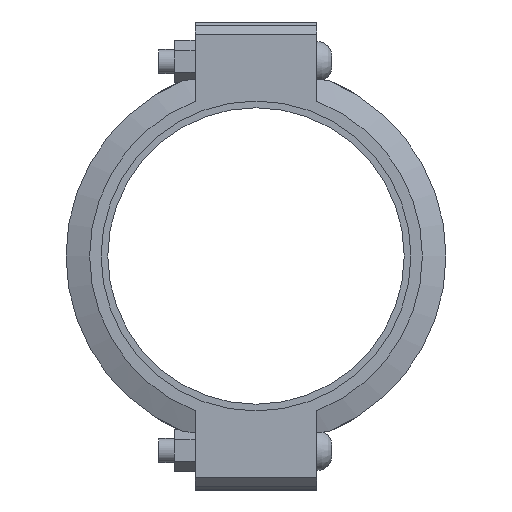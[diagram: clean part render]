
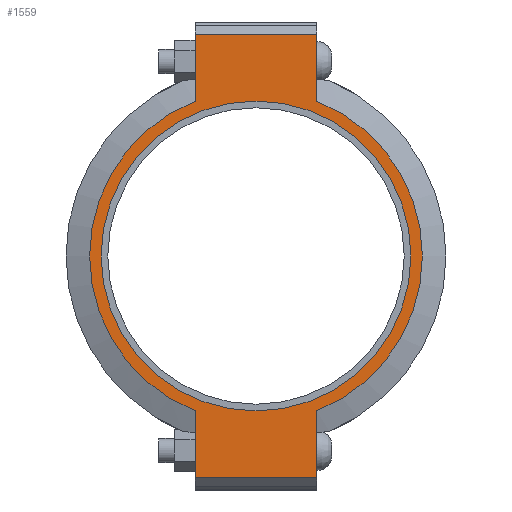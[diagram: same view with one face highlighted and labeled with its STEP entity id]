
A CAD part, left-side view. The second image highlights one B-rep face of the part: STEP entity #1559.
In plain terms, the highlighted planar face has unit normal (-1, 0, 0) as drawn and (0, 0, 1) by its records, which use the part's own axes.
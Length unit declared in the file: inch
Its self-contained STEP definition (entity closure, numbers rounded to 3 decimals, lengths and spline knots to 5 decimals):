
#186=LINE('',#2677,#273);
#197=LINE('',#2728,#284);
#203=LINE('',#2754,#290);
#205=LINE('',#2757,#292);
#206=LINE('',#2762,#293);
#207=LINE('',#2763,#294);
#273=VECTOR('',#2163,0.3937);
#284=VECTOR('',#2194,0.3937);
#290=VECTOR('',#2212,0.3937);
#292=VECTOR('',#2216,0.3937);
#293=VECTOR('',#2221,0.3937);
#294=VECTOR('',#2222,0.3937);
#352=FACE_BOUND('',#511,.T.);
#412=FACE_OUTER_BOUND('',#510,.T.);
#510=EDGE_LOOP('',(#1248,#1249,#1250,#1251,#1252,#1253,#1254,#1255));
#511=EDGE_LOOP('',(#1256));
#616=CIRCLE('',#1822,6.84375);
#617=CIRCLE('',#1823,6.84375);
#618=CIRCLE('',#1824,6.375);
#725=VERTEX_POINT('',#2674);
#726=VERTEX_POINT('',#2676);
#743=VERTEX_POINT('',#2723);
#744=VERTEX_POINT('',#2727);
#751=VERTEX_POINT('',#2749);
#752=VERTEX_POINT('',#2753);
#753=VERTEX_POINT('',#2759);
#754=VERTEX_POINT('',#2761);
#755=VERTEX_POINT('',#2765);
#895=EDGE_CURVE('',#726,#725,#186,.T.);
#916=EDGE_CURVE('',#744,#743,#197,.T.);
#927=EDGE_CURVE('',#752,#751,#203,.T.);
#929=EDGE_CURVE('',#752,#725,#205,.T.);
#930=EDGE_CURVE('',#751,#753,#616,.T.);
#931=EDGE_CURVE('',#753,#754,#206,.T.);
#932=EDGE_CURVE('',#744,#754,#207,.T.);
#933=EDGE_CURVE('',#743,#726,#617,.T.);
#934=EDGE_CURVE('',#755,#755,#618,.T.);
#1248=ORIENTED_EDGE('',*,*,#929,.F.);
#1249=ORIENTED_EDGE('',*,*,#927,.T.);
#1250=ORIENTED_EDGE('',*,*,#930,.T.);
#1251=ORIENTED_EDGE('',*,*,#931,.T.);
#1252=ORIENTED_EDGE('',*,*,#932,.F.);
#1253=ORIENTED_EDGE('',*,*,#916,.T.);
#1254=ORIENTED_EDGE('',*,*,#933,.T.);
#1255=ORIENTED_EDGE('',*,*,#895,.T.);
#1256=ORIENTED_EDGE('',*,*,#934,.T.);
#1411=PLANE('',#1821);
#1559=ADVANCED_FACE('',(#412,#352),#1411,.T.);
#1821=AXIS2_PLACEMENT_3D('',#2758,#2217,#2218);
#1822=AXIS2_PLACEMENT_3D('',#2760,#2219,#2220);
#1823=AXIS2_PLACEMENT_3D('',#2764,#2223,#2224);
#1824=AXIS2_PLACEMENT_3D('',#2766,#2225,#2226);
#2163=DIRECTION('',(1.,0.,0.));
#2194=DIRECTION('',(1.,0.,0.));
#2212=DIRECTION('',(-1.,0.,0.));
#2216=DIRECTION('',(0.,-1.,0.));
#2217=DIRECTION('center_axis',(0.,0.,1.));
#2218=DIRECTION('ref_axis',(-1.,0.,0.));
#2219=DIRECTION('center_axis',(0.,0.,1.));
#2220=DIRECTION('ref_axis',(1.,0.,0.));
#2221=DIRECTION('',(-1.,0.,0.));
#2222=DIRECTION('',(0.,1.,0.));
#2223=DIRECTION('center_axis',(0.,0.,1.));
#2224=DIRECTION('ref_axis',(1.,0.,0.));
#2225=DIRECTION('center_axis',(0.,0.,-1.));
#2226=DIRECTION('ref_axis',(1.,0.,0.));
#2674=CARTESIAN_POINT('',(9.125,-2.5,1.315));
#2676=CARTESIAN_POINT('',(6.37079,-2.5,1.315));
#2677=CARTESIAN_POINT('',(-9.625,-2.5,1.315));
#2723=CARTESIAN_POINT('',(-6.37079,-2.5,1.315));
#2727=CARTESIAN_POINT('',(-9.125,-2.5,1.315));
#2728=CARTESIAN_POINT('',(-9.625,-2.5,1.315));
#2749=CARTESIAN_POINT('',(6.37079,2.5,1.315));
#2753=CARTESIAN_POINT('',(9.125,2.5,1.315));
#2754=CARTESIAN_POINT('',(9.625,2.5,1.315));
#2757=CARTESIAN_POINT('',(9.125,-1.25,1.315));
#2758=CARTESIAN_POINT('Origin',(0.,0.,
1.315));
#2759=CARTESIAN_POINT('',(-6.37079,2.5,1.315));
#2760=CARTESIAN_POINT('Origin',(0.,0.,1.315));
#2761=CARTESIAN_POINT('',(-9.125,2.5,1.315));
#2762=CARTESIAN_POINT('',(9.625,2.5,1.315));
#2763=CARTESIAN_POINT('',(-9.125,1.25,1.315));
#2764=CARTESIAN_POINT('Origin',(0.,0.,1.315));
#2765=CARTESIAN_POINT('',(-6.375,0.,1.315));
#2766=CARTESIAN_POINT('Origin',(0.,0.,1.315));
